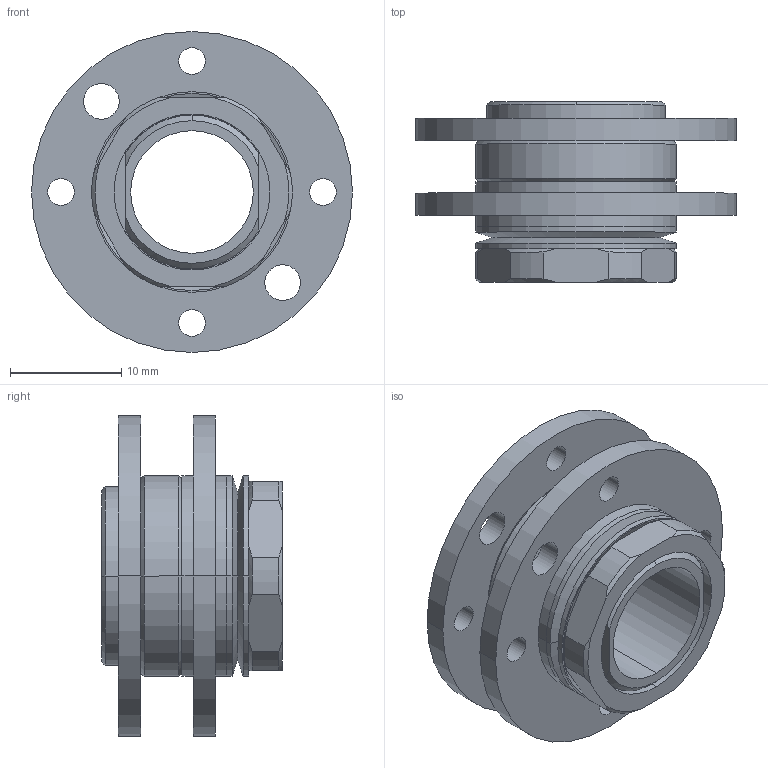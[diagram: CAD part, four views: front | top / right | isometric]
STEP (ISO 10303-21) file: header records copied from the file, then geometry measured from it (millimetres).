
FILE_DESCRIPTION (( 'STEP AP203' ), '1' );
FILE_NAME ('XG11-098.STEP', '2025-06-25T02:11:51', ( '微软用户' ), ( '微软中国' ), 'SwSTEP 2.0', 'SolidWorks 2024', '' );
FILE_SCHEMA (( 'CONFIG_CONTROL_DESIGN' ));
Length unit declared in the file: millimetre
Products named in the file (1): XG11-098
Bounding box: 28.8 x 16.2 x 28.8 mm (x, y, z)
Volume: 3711.8 mm3; surface area: 5595.5 mm2
Topology: 5 solids, 5 shells, 187 faces, 451 edges, 295 vertices
Faces by surface type: cylinder 99, plane 53, cone 35
Entity records: 5715 total; most frequent: DIRECTION 1040, CARTESIAN_POINT 1018, ORIENTED_EDGE 902, EDGE_CURVE 451, AXIS2_PLACEMENT_3D 429, VERTEX_POINT 295, EDGE_LOOP 242, CIRCLE 241
